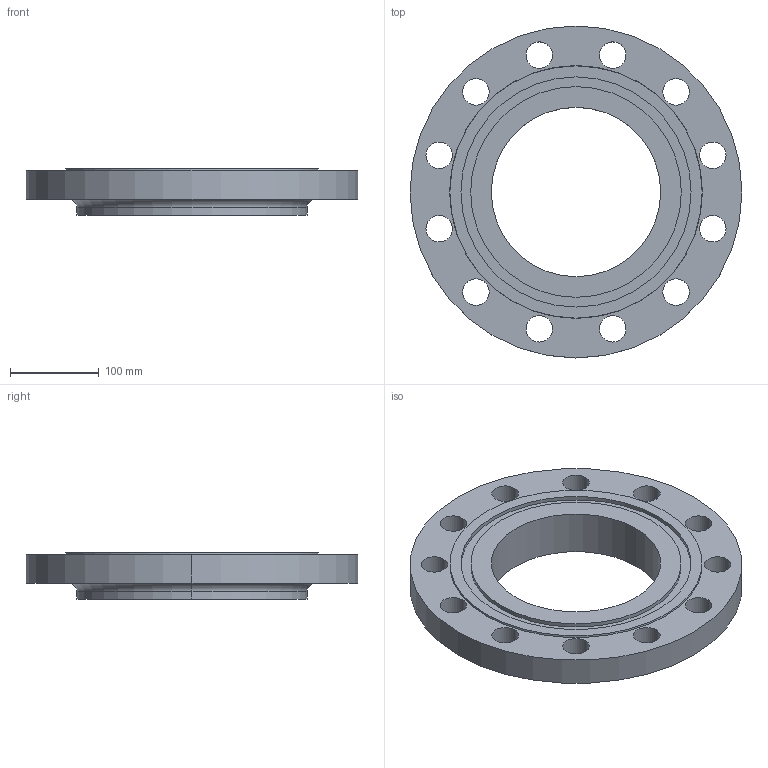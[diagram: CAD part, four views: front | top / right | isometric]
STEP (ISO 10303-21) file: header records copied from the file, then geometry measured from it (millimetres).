
FILE_DESCRIPTION (( 'STEP AP214' ), '1' );
FILE_NAME ('PN40 DN200 Type 13 - Type D Face.STEP', '2019-01-05T02:09:48', ( '' ), ( '' ), 'SwSTEP 2.0', 'SolidWorks 2019', '' );
FILE_SCHEMA (( 'AUTOMOTIVE_DESIGN' ));
Length unit declared in the file: millimetre
Products named in the file (1): PN40 DN200 Type 13 - Type D Face
Bounding box: 375 x 375 x 52 mm (x, y, z)
Volume: 2830324.2 mm3; surface area: 271354.4 mm2
Topology: 1 solids, 1 shells, 44 faces, 112 edges, 74 vertices
Faces by surface type: cylinder 34, plane 6, torus 2, cone 2
Entity records: 1462 total; most frequent: DIRECTION 278, CARTESIAN_POINT 231, ORIENTED_EDGE 224, AXIS2_PLACEMENT_3D 121, EDGE_CURVE 112, CIRCLE 76, EDGE_LOOP 74, VERTEX_POINT 74
